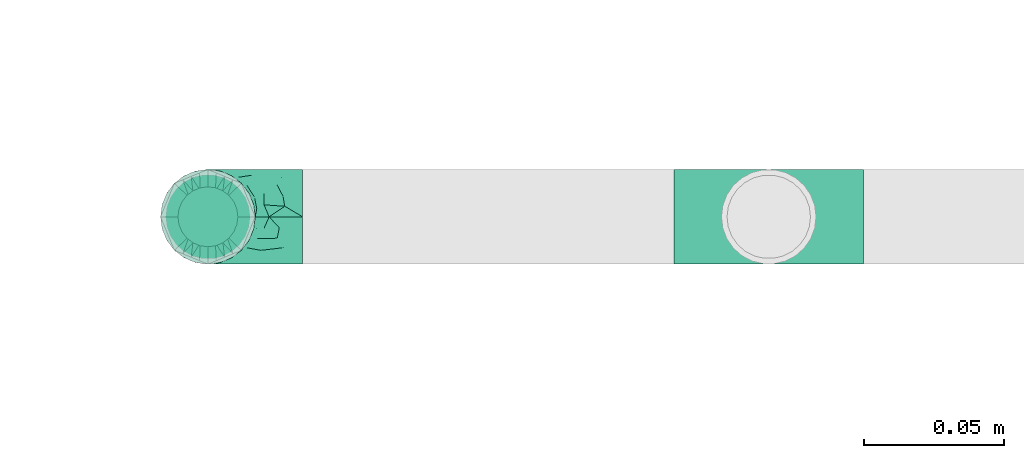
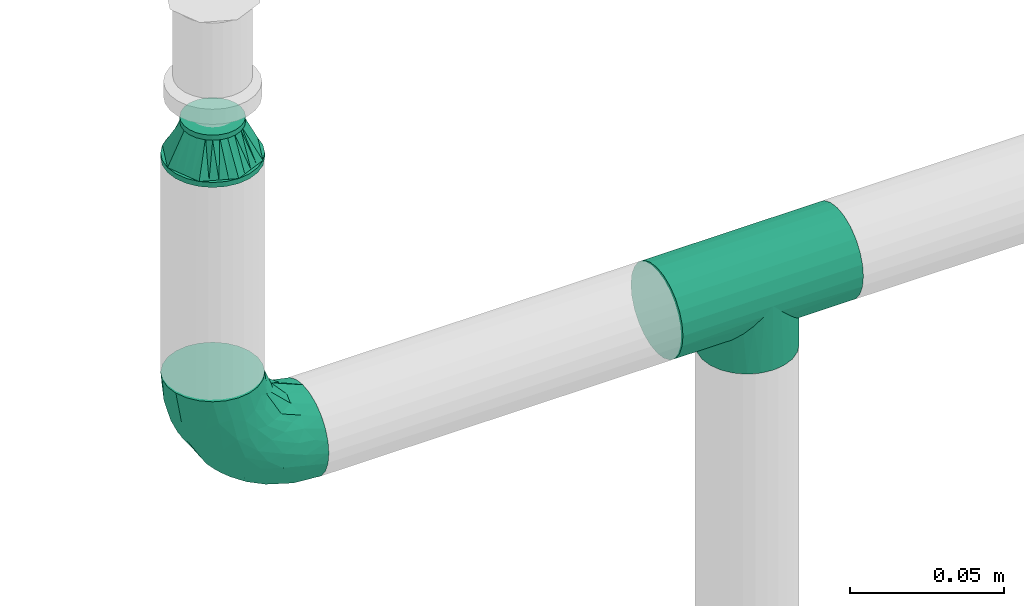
# One storey, part 76 of 157: 3 flow fittings.
"""IFC2X3 building model written with IfcOpenShell, lengths in millimetres."""

from ifc_helpers import new_model, entity, si_unit, converted_unit, derived_unit, direction, frame, origin_with_axes, place, context, subcontext, project, spatial, open_shell, surface_model, source, transform, mapped, type_object, element, save


model = new_model("IFC2X3")

# Units and contexts
model_context = context("Model", 3, precision=0.01, world=frame((0.0, 4.29681676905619e-09, 0.0)), true_north=direction((4.01073788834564e-13, 1.0)))
plan_context = context("Plan", 3, precision=0.01, world=frame((0.0, 4.29681676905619e-09, 0.0)), true_north=direction((4.01073788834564e-13, 1.0)))
body_context = subcontext(model_context, "Body", "Model", "MODEL_VIEW")
ifc_project = project(units=[converted_unit("PLANEANGLEUNIT", "DEGREE", entity("IfcPositiveLengthMeasure", 0.0174532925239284), si_unit("PLANEANGLEUNIT", "RADIAN"), dimensions=[0, 0, 0, 0, 0, 0, 0]), si_unit("AREAUNIT", "SQUARE_METRE"), si_unit("LENGTHUNIT", "METRE", prefix="MILLI"), si_unit("MASSUNIT", "GRAM", prefix="KILO"), si_unit("POWERUNIT", "WATT"), si_unit("PRESSUREUNIT", "PASCAL"), si_unit("FORCEUNIT", "NEWTON", prefix="KILO"), si_unit("ELECTRICCURRENTUNIT", "AMPERE"), si_unit("THERMODYNAMICTEMPERATUREUNIT", "DEGREE_CELSIUS"), si_unit("TIMEUNIT", "SECOND"), si_unit("VOLUMEUNIT", "CUBIC_METRE"), derived_unit("LINEARVELOCITYUNIT", [(si_unit("LENGTHUNIT", "METRE"), 1), (si_unit("TIMEUNIT", "SECOND"), -1)]), derived_unit("VOLUMETRICFLOWRATEUNIT", [(si_unit("VOLUMEUNIT", "CUBIC_METRE"), 1), (si_unit("TIMEUNIT", "SECOND"), -1)]), derived_unit("THERMALTRANSMITTANCEUNIT", [(si_unit("POWERUNIT", "WATT"), 1), (si_unit("THERMODYNAMICTEMPERATUREUNIT", "KELVIN"), -1), (si_unit("AREAUNIT", "SQUARE_METRE"), -1)])], contexts=[model_context, plan_context])

# Site, building, storey
site_placement = place(None, frame((0.0, -4.29681676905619e-09, 0.0), z_axis=(0.0, 0.0, 1.0), x_axis=(1.0, 0.0, 0.0)))
site = spatial("IfcSite", under=ifc_project, at=site_placement, CompositionType="ELEMENT")
building_placement = place(site_placement, frame((0.0, 4.29681676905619e-09, 0.0), z_axis=(0.0, 0.0, 1.0), x_axis=(1.0, 0.0, 0.0)))
building = spatial("IfcBuilding", under=site, at=building_placement, Name="mc-building", CompositionType="ELEMENT")
storey_placement = place(building_placement, frame((0.0, 0.0, 204000.0), z_axis=(0.0, 0.0, 1.0), x_axis=(1.0, 0.0, 0.0)))
storey = spatial("IfcBuildingStorey", under=building, at=storey_placement, Name="Nivå D", CompositionType="ELEMENT", Elevation=204000.0)

# Flow fittings
pipe_fitting_type_1 = type_object("IfcPipeFittingType", Name="magi_pipe_fe_tee_centric_90_NOR", PredefinedType="JUNCTION")
shared_shape_1 = source(origin_with_axes(), body_context, "Body", "SurfaceModel", [
    surface_model("IfcShellBasedSurfaceModel", [(-33.8, 4.37404, -16.32415), (-33.8, 0.0, -16.9), (-33.8, 16.32415, -4.37404), (-33.8, 8.45, -14.63583), (-33.8, 11.9501, -11.9501), (-33.8, 14.63583, -8.45), (-33.8, -16.9, 0.0), (-33.8, -11.9501, -11.9501), (-33.8, -14.63583, -8.45), (-33.8, -8.45, -14.63583), (-33.8, -4.37404, -16.32415), (-33.8, -16.32415, -4.37404), (-33.8, 14.63583, 8.45), (-33.8, 16.32415, 4.37404), (-33.8, -8.45, 14.63583), (-33.8, 8.45, 14.63583), (-33.8, 11.9501, 11.9501), (-33.8, 4.37404, 16.32415), (-33.8, 0.0, 16.9), (-33.8, -11.9501, 11.9501), (-33.8, -14.63583, 8.45), (-33.8, -16.32415, 4.37404), (-33.8, -4.37404, 16.32415), (-33.8, 16.9, 0.0), (33.8, 4.37404, -16.32415), (33.8, -16.9, 0.0), (33.8, 0.0, -16.9), (33.8, 14.63583, -8.45), (33.8, 8.45, -14.63583), (33.8, 16.32415, -4.37404), (33.8, 11.9501, -11.9501), (33.8, -16.32415, 4.37404), (33.8, -8.45, -14.63583), (33.8, -4.37404, -16.32415), (33.8, -11.9501, -11.9501), (33.8, -14.63583, -8.45), (33.8, -16.32415, -4.37404), (33.8, 16.32415, 4.37404), (33.8, 8.45, 14.63583), (33.8, 14.63583, 8.45), (33.8, 11.9501, 11.9501), (33.8, -8.45, 14.63583), (33.8, 4.37404, 16.32415), (33.8, -14.63583, 8.45), (33.8, -11.9501, 11.9501), (33.8, 0.0, 16.9), (33.8, -4.37404, 16.32415), (33.8, 16.9, 0.0), (16.28698, -16.28698, 4.51047), (16.9, -16.9, 0.0), (14.62704, -14.62704, 8.4652), (9.47213, -9.47213, 13.99602), (12.26343, -12.26343, 11.62834), (-16.9, -16.9, 0.0), (-16.28698, -16.28698, 4.51047), (-14.62704, -14.62704, 8.4652), (-12.26343, -12.26343, 11.62834), (-9.47213, -9.47213, 13.99602), (-6.42894, -6.42894, 15.62942), (6.42894, -6.42894, 15.62942), (3.24522, -3.24522, 16.58549), (0.0, 0.0, 16.9), (-3.24522, -3.24522, 16.58549), (3.24522, -3.24522, -16.58549), (0.0, 0.0, -16.9), (-3.24522, -3.24522, -16.58549), (-6.42894, -6.42894, -15.62942), (6.42894, -6.42894, -15.62942), (9.47213, -9.47213, -13.99602), (12.26343, -12.26343, -11.62834), (14.62704, -14.62704, -8.4652), (16.28698, -16.28698, -4.51047), (-9.47213, -9.47213, -13.99602), (-12.26343, -12.26343, -11.62834), (-16.28698, -16.28698, -4.51047), (-14.62704, -14.62704, -8.4652), (4.37404, -25.35, -16.32415), (-16.9, -25.35, 0.0), (0.0, -25.35, -16.9), (14.63583, -25.35, -8.45), (8.45, -25.35, -14.63583), (16.32415, -25.35, -4.37404), (11.9501, -25.35, -11.9501), (-11.9501, -25.35, -11.9501), (-8.45, -25.35, -14.63583), (-4.37404, -25.35, -16.32415), (-14.63583, -25.35, -8.45), (-16.32415, -25.35, -4.37404), (16.9, -25.35, 0.0), (8.45, -25.35, 14.63583), (16.32415, -25.35, 4.37404), (14.63583, -25.35, 8.45), (-8.45, -25.35, 14.63583), (11.9501, -25.35, 11.9501), (4.37404, -25.35, 16.32415), (-16.32415, -25.35, 4.37404), (-11.9501, -25.35, 11.9501), (-14.63583, -25.35, 8.45), (0.0, -25.35, 16.9), (-4.37404, -25.35, 16.32415)], [open_shell([[[0, 1, 2]], [[3, 0, 4]], [[0, 2, 5]], [[4, 0, 5]], [[6, 2, 1]], [[7, 8, 9]], [[1, 10, 9]], [[11, 6, 8]], [[1, 9, 8]], [[1, 8, 6]], [[6, 12, 2]], [[12, 13, 2]], [[14, 12, 6]], [[12, 14, 15]], [[16, 12, 15]], [[17, 15, 18]], [[19, 14, 20]], [[21, 20, 14]], [[22, 18, 14]], [[14, 6, 21]], [[14, 18, 15]], [[23, 2, 13]], [[24, 25, 26]], [[27, 24, 28]], [[27, 29, 24]], [[27, 28, 30]], [[31, 25, 24]], [[26, 32, 33]], [[26, 34, 32]], [[35, 25, 36]], [[35, 34, 26]], [[25, 35, 26]], [[24, 29, 31]], [[29, 37, 38]], [[38, 37, 39]], [[38, 31, 29]], [[38, 39, 40]], [[41, 38, 42]], [[43, 41, 44]], [[41, 43, 31]], [[41, 45, 46]], [[41, 31, 38]], [[42, 45, 41]], [[29, 47, 37]], [[31, 43, 48]], [[25, 31, 49]], [[49, 31, 48]], [[43, 50, 48]], [[44, 41, 51]], [[50, 43, 52]], [[51, 52, 44]], [[52, 43, 44]], [[53, 54, 21]], [[53, 21, 6]], [[21, 54, 20]], [[54, 55, 20]], [[56, 57, 19]], [[19, 20, 56]], [[19, 57, 14]], [[56, 20, 55]], [[14, 57, 58]], [[51, 41, 59]], [[60, 45, 61]], [[59, 46, 60]], [[46, 59, 41]], [[60, 46, 45]], [[61, 45, 42]], [[39, 37, 13]], [[16, 38, 40]], [[12, 40, 39]], [[42, 38, 15]], [[23, 37, 47]], [[62, 61, 18]], [[62, 22, 58]], [[22, 62, 18]], [[58, 22, 14]], [[61, 17, 18]], [[42, 17, 61]], [[15, 17, 42]], [[15, 38, 16]], [[12, 16, 40]], [[13, 12, 39]], [[37, 23, 13]], [[5, 27, 30]], [[23, 47, 29]], [[30, 28, 3]], [[27, 2, 29]], [[26, 33, 63]], [[26, 64, 24]], [[64, 26, 63]], [[28, 24, 0]], [[64, 0, 24]], [[4, 30, 3]], [[2, 27, 5]], [[5, 30, 4]], [[2, 23, 29]], [[65, 66, 10]], [[1, 0, 64]], [[1, 65, 10]], [[66, 9, 10]], [[0, 3, 28]], [[1, 64, 65]], [[63, 33, 67]], [[32, 34, 68]], [[69, 68, 34]], [[35, 70, 69]], [[69, 34, 35]], [[32, 68, 67]], [[36, 25, 49]], [[36, 71, 35]], [[71, 36, 49]], [[35, 71, 70]], [[72, 9, 66]], [[72, 7, 9]], [[7, 72, 73]], [[7, 73, 8]], [[74, 53, 11]], [[75, 74, 8]], [[74, 11, 8]], [[11, 53, 6]], [[75, 8, 73]], [[32, 67, 33]], [[76, 77, 78]], [[79, 76, 80]], [[79, 81, 76]], [[79, 80, 82]], [[77, 76, 81]], [[78, 83, 84]], [[84, 85, 78]], [[86, 77, 87]], [[83, 78, 86]], [[77, 86, 78]], [[81, 88, 77]], [[89, 88, 90]], [[89, 90, 91]], [[92, 77, 89]], [[89, 91, 93]], [[92, 89, 94]], [[95, 96, 97]], [[96, 95, 92]], [[92, 98, 99]], [[95, 77, 92]], [[94, 98, 92]], [[89, 77, 88]], [[77, 95, 53]], [[54, 53, 95]], [[97, 96, 56]], [[96, 92, 57]], [[95, 97, 54]], [[58, 92, 99]], [[55, 54, 97]], [[56, 55, 97]], [[58, 57, 92]], [[98, 61, 62]], [[58, 99, 62]], [[56, 96, 57]], [[62, 99, 98]], [[94, 60, 98]], [[89, 59, 94]], [[91, 90, 48]], [[52, 93, 91]], [[93, 51, 89]], [[49, 90, 88]], [[59, 60, 94]], [[51, 59, 89]], [[49, 48, 90]], [[50, 52, 91]], [[48, 50, 91]], [[51, 93, 52]], [[98, 60, 61]], [[88, 81, 49]], [[71, 49, 81]], [[79, 82, 69]], [[82, 80, 68]], [[81, 79, 71]], [[67, 80, 76]], [[70, 71, 79]], [[69, 70, 79]], [[67, 68, 80]], [[78, 64, 63]], [[67, 76, 63]], [[69, 82, 68]], [[63, 76, 78]], [[85, 65, 78]], [[84, 66, 85]], [[86, 87, 74]], [[86, 73, 83]], [[72, 84, 83]], [[53, 87, 77]], [[66, 65, 85]], [[72, 66, 84]], [[53, 74, 87]], [[75, 73, 86]], [[74, 75, 86]], [[72, 83, 73]], [[78, 65, 64]]])]),
])
flow_fitting_1_placement = place(storey_placement, frame((518500.0, 416601.26648, 2570.0), z_axis=(0.0, 1.0, 0.0), x_axis=(-1.0, 0.0, 0.0)))
element("IfcFlowFitting", 1, at=flow_fitting_1_placement, inside=storey, type_object=pipe_fitting_type_1, Name="magi_pipe_fe_tee_centric_90_NOR", context=body_context, shape_type="MappedRepresentation", body=[
    mapped(shared_shape_1, transform((0.0, 0.0, 0.0), scale=1.0)),
])
pipe_fitting_type_2 = type_object("IfcPipeFittingType", Name="magi_pipe_fe_reducer_centric_short_NOR", PredefinedType="TRANSITION")
shared_shape_2 = source(origin_with_axes(), body_context, "Body", "SurfaceModel", [
    surface_model("IfcShellBasedSurfaceModel", [(14.4, 5.35, -9.26647), (14.4, 0.0, -10.7), (14.4, 2.76936, -10.33541), (14.4, 10.33541, -2.76936), (14.4, 7.56604, -7.56604), (14.4, -10.33541, -2.76936), (14.4, 9.26647, -5.35), (14.4, 0.0, 10.7), (14.4, -5.35, -9.26647), (14.4, -2.76936, -10.33541), (14.4, -7.56604, -7.56604), (14.4, -9.26647, -5.35), (14.4, 10.7, 0.0), (14.4, 10.33541, 2.76936), (14.4, 9.26647, 5.35), (14.4, 7.56604, 7.56604), (14.4, 2.76936, 10.33541), (14.4, 5.35, 9.26647), (14.4, -10.33541, 2.76936), (14.4, -7.56604, 7.56604), (14.4, -9.26647, 5.35), (14.4, -10.7, 0.0), (14.4, -2.76936, 10.33541), (14.4, -5.35, 9.26647), (12.4, 2.76936, 10.33541), (12.4, -10.33541, -2.76936), (12.4, 0.0, 10.7), (12.4, 5.35, 9.26647), (12.4, 7.56604, 7.56604), (12.4, 9.26647, 5.35), (12.4, 10.33541, 2.76936), (12.4, -10.33541, 2.76936), (12.4, -2.76936, 10.33541), (12.4, -7.56604, 7.56604), (12.4, -5.35, 9.26647), (12.4, -9.26647, 5.35), (12.4, -10.7, 0.0), (12.4, 10.33541, -2.76936), (12.4, 5.35, -9.26647), (12.4, 9.26647, -5.35), (12.4, 7.56604, -7.56604), (12.4, 2.76936, -10.33541), (12.4, -9.26647, -5.35), (12.4, -5.35, -9.26647), (12.4, -7.56604, -7.56604), (12.4, 0.0, -10.7), (12.4, -2.76936, -10.33541), (12.4, 10.7, 0.0), (-2.0, 11.9501, 11.9501), (-2.0, 0.0, 16.9), (-2.0, 4.37404, 16.32415), (-2.0, 8.45, 14.63583), (-2.0, 14.63583, 8.45), (-2.0, 16.32415, 4.37404), (-2.0, -16.32415, 4.37404), (-2.0, -8.45, 14.63583), (-2.0, -14.63583, 8.45), (-2.0, -11.9501, 11.9501), (-2.0, -4.37404, 16.32415), (-2.0, -16.32415, -4.37404), (-2.0, -16.9, 0.0), (-2.0, -8.45, -14.63583), (-2.0, 16.32415, -4.37404), (-2.0, 11.9501, -11.9501), (-2.0, 14.63583, -8.45), (-2.0, 8.45, -14.63583), (-2.0, 4.37404, -16.32415), (-2.0, 0.0, -16.9), (-2.0, -11.9501, -11.9501), (-2.0, -14.63583, -8.45), (-2.0, -4.37404, -16.32415), (-2.0, 16.9, 0.0), (0.0, 4.37404, -16.32415), (0.0, 8.45, -14.63583), (0.0, 11.9501, -11.9501), (0.0, 0.0, -16.9), (0.0, 16.32415, -4.37404), (0.0, 16.32415, 4.37404), (0.0, 14.63583, -8.45), (0.0, -8.45, -14.63583), (0.0, -4.37404, -16.32415), (0.0, -11.9501, -11.9501), (0.0, -16.32415, -4.37404), (0.0, -14.63583, -8.45), (0.0, -16.32415, 4.37404), (0.0, 16.9, 0.0), (0.0, 14.63583, 8.45), (0.0, 11.9501, 11.9501), (0.0, 4.37404, 16.32415), (0.0, 8.45, 14.63583), (0.0, 0.0, 16.9), (0.0, -14.63583, 8.45), (0.0, -16.9, 0.0), (0.0, -8.45, 14.63583), (0.0, -11.9501, 11.9501), (0.0, -4.37404, 16.32415), (12.4, 9.3625, -2.31662), (0.0, 14.42505, -5.97505), (0.0, 15.66253, -2.98753), (12.4, -6.6875, -6.94985), (0.0, -13.18758, -8.96258), (0.0, 2.98753, -15.66253), (12.4, 0.0, -9.26647), (12.4, 6.6875, -6.94985), (0.0, 8.96258, -13.18758), (12.4, -9.3625, -2.31662), (0.0, -15.66253, -2.98753), (0.0, -14.42505, -5.97505), (0.0, 5.97505, -14.42505), (0.0, -2.98753, -15.66253), (0.0, -8.96258, -13.18758), (0.0, 13.18758, -8.96258), (12.4, 8.025, -4.63324), (12.4, -2.675, -9.26647), (12.4, 2.675, -9.26647), (0.0, -5.97505, -14.42505), (12.4, -8.025, -4.63324), (12.4, -9.3625, 2.31662), (0.0, -14.42505, 5.97505), (0.0, -15.66253, 2.98753), (12.4, 6.6875, 6.94985), (0.0, 13.18758, 8.96258), (0.0, -2.98753, 15.66253), (12.4, 0.0, 9.26647), (12.4, -6.6875, 6.94985), (0.0, -8.96258, 13.18758), (12.4, 9.3625, 2.31662), (0.0, 15.66253, 2.98753), (0.0, 14.42505, 5.97505), (0.0, -5.97505, 14.42505), (0.0, 2.98753, 15.66253), (0.0, 8.96258, 13.18758), (0.0, -13.18758, 8.96258), (12.4, -8.025, 4.63324), (12.4, 2.675, 9.26647), (12.4, -2.675, 9.26647), (0.0, 5.97505, 14.42505), (12.4, 8.025, 4.63324)], [open_shell([[[0, 1, 2]], [[3, 0, 4]], [[5, 0, 3]], [[3, 4, 6]], [[7, 5, 3]], [[1, 8, 9]], [[1, 0, 8]], [[10, 5, 11]], [[5, 10, 8]], [[0, 5, 8]], [[3, 12, 13]], [[13, 14, 15]], [[13, 15, 16]], [[7, 3, 16]], [[16, 15, 17]], [[7, 18, 5]], [[18, 19, 20]], [[21, 5, 18]], [[19, 22, 23]], [[22, 19, 18]], [[7, 22, 18]], [[13, 16, 3]], [[24, 25, 26]], [[27, 25, 24]], [[28, 29, 30]], [[28, 25, 27]], [[31, 26, 25]], [[32, 33, 34]], [[33, 32, 31]], [[33, 31, 35]], [[32, 26, 31]], [[31, 25, 36]], [[30, 37, 28]], [[25, 28, 37]], [[38, 37, 39]], [[37, 38, 25]], [[38, 39, 40]], [[41, 25, 38]], [[42, 43, 44]], [[43, 42, 25]], [[43, 45, 46]], [[43, 25, 41]], [[41, 45, 43]], [[37, 30, 47]], [[25, 5, 36]], [[42, 11, 25]], [[8, 44, 43]], [[42, 44, 10]], [[9, 43, 46]], [[25, 11, 5]], [[5, 21, 36]], [[9, 8, 43]], [[10, 44, 8]], [[10, 11, 42]], [[1, 9, 46]], [[46, 45, 1]], [[41, 2, 45]], [[38, 0, 41]], [[6, 40, 39]], [[38, 40, 4]], [[3, 39, 37]], [[38, 4, 0]], [[0, 2, 41]], [[12, 3, 37]], [[6, 39, 3]], [[6, 4, 40]], [[47, 12, 37]], [[45, 2, 1]], [[30, 13, 47]], [[29, 14, 30]], [[17, 28, 27]], [[29, 28, 15]], [[16, 27, 24]], [[30, 14, 13]], [[13, 12, 47]], [[16, 17, 27]], [[15, 28, 17]], [[15, 14, 29]], [[7, 16, 24]], [[24, 26, 7]], [[32, 22, 26]], [[34, 23, 32]], [[20, 33, 35]], [[34, 33, 19]], [[18, 35, 31]], [[34, 19, 23]], [[23, 22, 32]], [[21, 18, 31]], [[20, 35, 18]], [[20, 19, 33]], [[36, 21, 31]], [[26, 22, 7]], [[48, 49, 50]], [[48, 50, 51]], [[48, 52, 53]], [[48, 53, 49]], [[49, 53, 54]], [[55, 56, 57]], [[55, 58, 49]], [[56, 55, 49]], [[49, 54, 56]], [[54, 59, 60]], [[54, 53, 61]], [[53, 62, 63]], [[63, 62, 64]], [[63, 65, 66]], [[61, 53, 63]], [[67, 63, 66]], [[59, 68, 69]], [[68, 59, 61]], [[61, 67, 70]], [[59, 54, 61]], [[63, 67, 61]], [[53, 71, 62]], [[72, 73, 74]], [[75, 72, 74]], [[74, 76, 77]], [[76, 74, 78]], [[74, 77, 79]], [[75, 79, 80]], [[75, 74, 79]], [[81, 82, 83]], [[82, 81, 79]], [[79, 84, 82]], [[77, 76, 85]], [[77, 86, 87]], [[77, 87, 88]], [[88, 84, 79]], [[88, 87, 89]], [[84, 88, 90]], [[90, 91, 84]], [[92, 82, 84]], [[91, 93, 94]], [[91, 90, 93]], [[93, 90, 95]], [[79, 77, 88]], [[59, 82, 60]], [[69, 83, 59]], [[79, 68, 61]], [[69, 68, 81]], [[80, 61, 70]], [[59, 83, 82]], [[82, 92, 60]], [[80, 79, 61]], [[81, 68, 79]], [[81, 83, 69]], [[75, 80, 70]], [[70, 67, 75]], [[66, 72, 67]], [[65, 73, 66]], [[78, 63, 64]], [[65, 63, 74]], [[76, 64, 62]], [[65, 74, 73]], [[73, 72, 66]], [[85, 76, 62]], [[78, 64, 76]], [[78, 74, 63]], [[71, 85, 62]], [[67, 72, 75]], [[53, 77, 71]], [[52, 86, 53]], [[89, 48, 51]], [[52, 48, 87]], [[88, 51, 50]], [[53, 86, 77]], [[77, 85, 71]], [[88, 89, 51]], [[87, 48, 89]], [[87, 86, 52]], [[90, 88, 50]], [[50, 49, 90]], [[58, 95, 49]], [[55, 93, 58]], [[91, 57, 56]], [[55, 57, 94]], [[84, 56, 54]], [[55, 94, 93]], [[93, 95, 58]], [[92, 84, 54]], [[91, 56, 84]], [[91, 94, 57]], [[60, 92, 54]], [[49, 95, 90]], [[27, 34, 47]], [[47, 34, 43]], [[43, 38, 47]], [[43, 34, 36]], [[90, 87, 94]], [[92, 94, 87]], [[87, 74, 92]], [[75, 92, 74]], [[81, 92, 75]], [[74, 87, 85]], [[96, 97, 98]], [[81, 99, 100]], [[101, 102, 75]], [[98, 85, 47]], [[74, 103, 104]], [[104, 103, 38]], [[105, 106, 107]], [[38, 108, 104]], [[102, 109, 75]], [[110, 99, 81]], [[47, 96, 98]], [[103, 111, 112]], [[109, 102, 113]], [[36, 92, 106]], [[102, 101, 114]], [[110, 115, 43]], [[96, 112, 97]], [[107, 116, 105]], [[36, 106, 105]], [[113, 115, 109]], [[43, 115, 113]], [[116, 107, 100]], [[108, 38, 114]], [[111, 103, 74]], [[111, 97, 112]], [[99, 110, 43]], [[116, 100, 99]], [[101, 108, 114]], [[117, 118, 119]], [[87, 120, 121]], [[122, 123, 90]], [[119, 92, 36]], [[94, 124, 125]], [[125, 124, 34]], [[126, 127, 128]], [[34, 129, 125]], [[123, 130, 90]], [[131, 120, 87]], [[36, 117, 119]], [[124, 132, 133]], [[130, 123, 134]], [[47, 85, 127]], [[123, 122, 135]], [[131, 136, 27]], [[117, 133, 118]], [[128, 137, 126]], [[47, 127, 126]], [[134, 136, 130]], [[27, 136, 134]], [[137, 128, 121]], [[129, 34, 135]], [[132, 124, 94]], [[132, 118, 133]], [[120, 131, 27]], [[137, 121, 120]], [[122, 129, 135]]])]),
])
flow_fitting_2_placement = place(storey_placement, frame((518299.77498, 416601.26648, 2690.64799999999), z_axis=(0.0, 1.0, 0.0), x_axis=(0.0, 0.0, 1.0)))
element("IfcFlowFitting", 2, at=flow_fitting_2_placement, inside=storey, type_object=pipe_fitting_type_2, Name="magi_pipe_fe_reducer_centric_short_NOR", context=body_context, shape_type="MappedRepresentation", body=[
    mapped(shared_shape_2, transform((0.0, 0.0, 0.0), scale=1.0)),
])
pipe_fitting_type_3 = type_object("IfcPipeFittingType", Name="magi_pipe_fe_elbow_short_001", PredefinedType="BEND")
shared_shape_3 = source(origin_with_axes(), body_context, "Body", "SurfaceModel", [
    surface_model("IfcShellBasedSurfaceModel", [(-33.8, 8.45, -14.63583), (-33.8, 4.37404, -16.32415), (-33.8, 11.9501, -11.9501), (-33.8, -11.9501, -11.9501), (-33.8, -14.63583, -8.45), (-33.8, -8.45, -14.63583), (-33.8, 0.0, -16.9), (-33.8, -4.37404, -16.32415), (-33.8, -4.37404, 16.32415), (-33.8, 0.0, 16.9), (-33.8, -8.45, 14.63583), (-33.8, 16.32415, -4.37404), (-33.8, 14.63583, -8.45), (-33.8, -16.32415, -4.37404), (-33.8, -16.9, 0.0), (-33.8, -16.32415, 4.37404), (-33.8, 11.9501, 11.9501), (-33.8, 14.63583, 8.45), (-33.8, 16.32415, 4.37404), (-33.8, 4.37404, 16.32415), (-33.8, 8.45, 14.63583), (-33.8, -14.63583, 8.45), (-33.8, -11.9501, 11.9501), (-33.8, 16.9, 0.0), (-11.9501, 33.8, -11.9501), (0.0, 33.8, -16.9), (-4.37404, 33.8, -16.32415), (-8.45, 33.8, -14.63583), (-14.63583, 33.8, -8.45), (-16.32415, 33.8, -4.37404), (14.63583, 33.8, -8.45), (8.45, 33.8, 14.63583), (16.32415, 33.8, -4.37404), (8.45, 33.8, -14.63583), (11.9501, 33.8, -11.9501), (4.37404, 33.8, -16.32415), (16.32415, 33.8, 4.37404), (16.9, 33.8, 0.0), (-11.9501, 33.8, 11.9501), (-16.32415, 33.8, 4.37404), (-14.63583, 33.8, 8.45), (-8.45, 33.8, 14.63583), (-4.37404, 33.8, 16.32415), (11.9501, 33.8, 11.9501), (14.63583, 33.8, 8.45), (0.0, 33.8, 16.9), (4.37404, 33.8, 16.32415), (-16.9, 33.8, 0.0), (-24.79389, -13.12945, 9.48721), (-22.19287, -9.75018, 12.59315), (-24.09897, -14.97035, 0.0), (-14.93934, -10.76256, 8.5297), (-22.46095, -14.75051, 5.27077), (14.75051, 22.46094, 5.27077), (11.9251, 13.23888, 4.33236), (13.04069, 14.39795, 0.0), (7.71387, 13.68847, 11.55891), (9.75018, 22.19287, 12.59315), (4.10169, 13.0571, 14.04018), (-24.84007, -6.39063, 15.2048), (-25.81779, -2.23879, 16.61097), (-23.66549, 2.59054, 16.87119), (-26.50418, 14.06512, 11.08152), (-24.21253, 17.66365, 7.72657), (-29.58514, 15.86957, 7.00283), (-6.17382, -7.5455, 0.0), (-13.23888, -11.9251, 4.33236), (-14.39795, -13.04069, 0.0), (-17.81434, 18.87373, 11.97104), (-6.30846, 29.15138, 15.82987), (-2.31622, 25.28002, 16.85849), (-29.23923, 10.23435, 13.77053), (-1.45439, -2.85688, 7.61475), (-0.28326, 0.34872, 10.09509), (-5.74484, -4.04709, 10.4122), (-4.41137, 11.31918, 16.59407), (-8.39727, 3.10034, 15.7812), (-1.72649, 9.1306, 15.53089), (-17.39909, 24.75344, 7.64977), (-26.19233, 20.0512, 0.0), (-28.14518, 17.29657, 4.25857), (-26.05147, 6.6281, 15.96447), (-5.87354, 16.61944, 16.86968), (-12.51807, 12.51807, 16.48937), (-10.06312, 7.38516, 16.81295), (-3.01882, 3.01882, 13.81718), (-13.0571, -4.10169, 14.04018), (-16.82553, -0.15166, 16.38038), (10.76256, 14.93934, 8.5297), (13.12945, 24.79389, 9.48721), (6.39063, 24.84007, 15.2048), (2.23879, 25.81779, 16.61097), (-13.68847, -7.71387, 11.55891), (14.97035, 24.09897, 0.0), (-7.30894, 22.89991, 16.09489), (-10.67958, 26.17414, 14.008), (-12.78295, 18.26924, 15.06066), (-13.88562, 22.45231, 12.93244), (-18.04944, 15.16501, 14.04434), (-23.11658, 20.08178, 4.02986), (-21.84989, 21.84989, 0.0), (-18.55817, 25.48277, 3.93065), (-13.95142, 26.94732, 11.03289), (-18.57098, 7.23906, 16.59756), (-16.58335, 4.14122, 16.89279), (-17.96666, 11.46709, 15.63151), (-9.84453, 17.54304, 16.18938), (0.15166, 16.82553, 16.38038), (-23.27207, 11.47201, 14.23154), (3.84842, 5.86994, 10.70473), (-8.0212, -7.54413, 7.93275), (1.00345, -2.19508, 4.57414), (5.13203, 3.01004, 5.90201), (5.24161, 1.7543, 2.53265), (8.70457, 7.04947, 3.99182), (-20.0512, 26.19233, 0.0), (8.4852, 8.76699, 7.09296), (-4.55488, -6.72064, 4.90681), (2.05031, -2.05031, 0.0), (7.5455, 6.17382, 0.0), (-26.75399, 2.1369, -16.845), (-14.61995, 24.73803, -11.27736), (-28.45274, -13.45335, -9.81895), (-26.00469, 6.63555, -15.96645), (-23.06726, 20.04573, -4.26202), (-13.80647, -4.26506, -14.17873), (-14.67501, -0.21081, -16.07388), (-6.7902, -0.2828, -13.8478), (-24.53586, 11.08096, -14.13417), (-26.72048, 14.00837, -11.05776), (10.0967, 24.44989, -12.75976), (5.83237, 21.40218, -15.03047), (6.66249, 28.54238, -15.38093), (-20.38182, 15.48705, -12.74596), (12.53268, 21.23441, -9.15363), (12.54494, 15.67504, -5.54878), (9.7522, 12.89279, -8.66343), (-15.65186, 19.64213, -13.01327), (-12.03528, 20.66498, -14.67665), (-15.61907, 15.61906, -14.83879), (-25.56551, -15.26206, 0.0), (-24.65452, -15.12934, -5.50955), (13.45335, 28.45274, -9.81895), (15.12934, 24.65452, -5.50955), (-7.35442, -8.31014, -5.65563), (-15.67504, -12.54494, -5.54878), (-24.44989, -10.0967, -12.75976), (0.16522, 0.41303, -9.71728), (-5.70658, -5.33066, -8.89288), (-5.13869, -2.37198, -11.53565), (-21.23441, -12.53268, -9.15363), (0.71146, 7.93863, -14.09382), (0.21081, 14.67501, -16.07388), (3.49291, 14.42772, -14.76381), (-24.89911, -2.13088, -16.591), (-28.54238, -6.66249, -15.38093), (-18.44386, -7.71663, -13.26957), (2.13088, 24.89911, -16.591), (-28.64342, 17.44413, -2.89318), (1.70017, -1.28722, -5.09504), (-16.57067, 26.81947, -7.36596), (-17.69055, 27.4263, -3.76405), (-12.89279, -9.7522, -8.66343), (-5.96611, 5.96611, -15.95814), (-20.53709, 20.09345, -8.28985), (-2.1369, 26.75399, -16.845), (-6.89872, 24.58781, -16.02578), (-10.60739, 26.53157, -13.98044), (-21.40218, -5.83237, -15.03047), (2.93192, 5.89627, -11.55917), (6.89393, 12.61842, -11.82233), (5.58056, 5.95325, -8.79455), (-3.99512, 18.61798, -16.89635), (8.31014, 7.35442, -5.65563), (-9.1383, 9.86148, -16.89041), (-9.99983, 16.02119, -16.39699), (-16.68576, 9.78031, -16.34199), (-27.01915, 16.61158, -7.12979), (15.26206, 25.56551, 0.0), (-18.61798, 3.99512, -16.89635), (-19.37495, 27.82495, 0.0), (-12.61842, -6.89393, -11.82233), (-18.84705, 19.14018, -10.96545)], [open_shell([[[0, 1, 2]], [[3, 4, 5]], [[6, 7, 5]], [[8, 9, 10]], [[1, 6, 2]], [[11, 12, 2]], [[4, 2, 6]], [[2, 13, 10]], [[5, 4, 6]], [[2, 4, 13]], [[14, 15, 13]], [[11, 2, 16]], [[11, 17, 18]], [[11, 16, 17]], [[19, 20, 16]], [[16, 2, 10]], [[19, 16, 10]], [[21, 22, 15]], [[22, 13, 15]], [[22, 10, 13]], [[10, 9, 19]], [[11, 18, 23]], [[24, 25, 26]], [[24, 26, 27]], [[24, 28, 29]], [[25, 24, 30]], [[31, 32, 24]], [[33, 30, 34]], [[33, 35, 25]], [[25, 30, 33]], [[32, 30, 24]], [[32, 36, 37]], [[38, 24, 29]], [[39, 40, 29]], [[40, 38, 29]], [[38, 41, 42]], [[38, 31, 24]], [[31, 38, 42]], [[36, 43, 44]], [[36, 32, 43]], [[31, 45, 46]], [[32, 31, 43]], [[42, 45, 31]], [[39, 29, 47]], [[22, 48, 49]], [[15, 14, 50]], [[51, 48, 52]], [[53, 54, 55]], [[48, 22, 21]], [[15, 52, 21]], [[56, 57, 58]], [[49, 10, 22]], [[49, 59, 10]], [[9, 60, 61]], [[62, 63, 64]], [[65, 66, 67]], [[57, 43, 31]], [[62, 68, 63]], [[42, 69, 70]], [[20, 71, 16]], [[8, 60, 9]], [[72, 73, 74]], [[75, 76, 77]], [[16, 62, 17]], [[40, 39, 78]], [[79, 23, 80]], [[64, 18, 17]], [[9, 61, 19]], [[19, 81, 20]], [[82, 83, 84]], [[74, 85, 86]], [[59, 86, 87]], [[88, 89, 57]], [[90, 31, 46]], [[44, 53, 36]], [[46, 45, 91]], [[54, 53, 88]], [[44, 89, 53]], [[92, 86, 49]], [[89, 44, 43]], [[10, 59, 8]], [[53, 55, 93]], [[93, 36, 53]], [[66, 52, 67]], [[94, 82, 70]], [[95, 96, 94]], [[97, 98, 96]], [[79, 99, 100]], [[41, 38, 95]], [[101, 100, 99]], [[68, 78, 63]], [[42, 41, 69]], [[23, 18, 80]], [[95, 94, 69]], [[78, 101, 99]], [[38, 102, 95]], [[70, 45, 42]], [[97, 95, 102]], [[15, 50, 52]], [[90, 57, 31]], [[57, 90, 58]], [[81, 19, 61]], [[103, 104, 84]], [[105, 81, 103]], [[38, 40, 102]], [[106, 96, 83]], [[94, 106, 82]], [[91, 70, 107]], [[71, 62, 16]], [[62, 108, 98]], [[86, 59, 49]], [[67, 52, 50]], [[60, 59, 87]], [[92, 49, 51]], [[86, 85, 76]], [[91, 90, 46]], [[37, 36, 93]], [[107, 77, 58]], [[107, 58, 90]], [[58, 85, 109]], [[110, 74, 92]], [[72, 74, 110]], [[66, 51, 52]], [[72, 111, 112]], [[113, 114, 112]], [[56, 88, 57]], [[52, 48, 21]], [[49, 48, 51]], [[57, 89, 43]], [[53, 89, 88]], [[103, 81, 61]], [[71, 81, 108]], [[18, 64, 80]], [[63, 78, 99]], [[47, 115, 101]], [[101, 115, 100]], [[40, 78, 102]], [[68, 102, 78]], [[97, 96, 95]], [[105, 98, 108]], [[103, 84, 83]], [[107, 70, 82]], [[76, 84, 87]], [[82, 84, 75]], [[70, 91, 45]], [[90, 91, 107]], [[59, 60, 8]], [[61, 60, 87]], [[73, 85, 74]], [[109, 112, 116]], [[103, 61, 104]], [[105, 103, 83]], [[96, 105, 83]], [[81, 105, 108]], [[96, 98, 105]], [[62, 98, 68]], [[61, 87, 104]], [[87, 84, 104]], [[86, 76, 87]], [[77, 76, 85]], [[58, 77, 85]], [[75, 77, 107]], [[82, 75, 107]], [[76, 75, 84]], [[81, 71, 20]], [[62, 71, 108]], [[95, 69, 41]], [[70, 69, 94]], [[62, 64, 17]], [[80, 63, 99]], [[63, 80, 64]], [[80, 99, 79]], [[66, 65, 117]], [[110, 66, 117]], [[112, 114, 116]], [[118, 117, 65]], [[110, 92, 51]], [[112, 111, 113]], [[119, 55, 54]], [[74, 86, 92]], [[58, 109, 56]], [[116, 56, 109]], [[66, 110, 51]], [[72, 110, 117]], [[111, 72, 117]], [[73, 112, 109]], [[117, 118, 111]], [[113, 111, 118]], [[118, 119, 113]], [[114, 119, 54]], [[119, 114, 113]], [[116, 54, 88]], [[54, 116, 114]], [[116, 88, 56]], [[112, 73, 72]], [[85, 73, 109]], [[78, 39, 101]], [[47, 101, 39]], [[102, 68, 97]], [[97, 68, 98]], [[82, 106, 83]], [[94, 96, 106]], [[1, 120, 6]], [[28, 24, 121]], [[3, 122, 4]], [[0, 123, 1]], [[100, 124, 79]], [[125, 126, 127]], [[128, 2, 129]], [[130, 131, 132]], [[128, 129, 133]], [[134, 135, 136]], [[137, 138, 139]], [[128, 0, 2]], [[67, 140, 141]], [[134, 142, 143]], [[141, 13, 4]], [[144, 65, 145]], [[146, 3, 5]], [[147, 148, 149]], [[145, 141, 150]], [[151, 152, 153]], [[154, 7, 6]], [[5, 155, 146]], [[150, 146, 156]], [[155, 5, 7]], [[143, 135, 134]], [[35, 157, 25]], [[23, 79, 158]], [[148, 159, 144]], [[160, 161, 29]], [[145, 162, 144]], [[163, 152, 151]], [[29, 28, 160]], [[121, 164, 160]], [[33, 34, 130]], [[25, 165, 26]], [[26, 165, 166]], [[142, 34, 30]], [[24, 27, 167]], [[124, 161, 164]], [[157, 35, 132]], [[155, 154, 168]], [[123, 0, 128]], [[169, 170, 171]], [[172, 157, 152]], [[26, 166, 27]], [[132, 35, 33]], [[142, 130, 34]], [[168, 154, 126]], [[136, 135, 173]], [[133, 137, 139]], [[2, 12, 129]], [[170, 131, 130]], [[30, 32, 143]], [[172, 174, 175]], [[176, 123, 128]], [[158, 177, 11]], [[135, 55, 119]], [[167, 27, 166]], [[175, 166, 172]], [[137, 167, 138]], [[122, 141, 4]], [[140, 14, 13]], [[32, 37, 178]], [[170, 130, 134]], [[152, 157, 131]], [[165, 157, 172]], [[153, 170, 151]], [[152, 163, 174]], [[168, 125, 156]], [[122, 146, 150]], [[120, 154, 6]], [[179, 174, 126]], [[179, 126, 154]], [[126, 163, 127]], [[162, 145, 150]], [[140, 13, 141]], [[32, 178, 143]], [[55, 143, 178]], [[177, 129, 12]], [[128, 133, 139]], [[176, 128, 139]], [[120, 123, 179]], [[121, 160, 28]], [[161, 100, 180]], [[166, 175, 138]], [[121, 24, 167]], [[161, 47, 29]], [[79, 124, 158]], [[124, 164, 177]], [[161, 124, 100]], [[136, 171, 170]], [[127, 163, 151]], [[147, 171, 159]], [[148, 144, 162]], [[127, 151, 169]], [[127, 181, 125]], [[129, 177, 164]], [[12, 11, 177]], [[159, 65, 144]], [[67, 141, 145]], [[143, 55, 135]], [[135, 119, 173]], [[123, 120, 1]], [[154, 120, 179]], [[157, 165, 25]], [[166, 165, 172]], [[172, 152, 174]], [[176, 139, 175]], [[126, 174, 163]], [[176, 174, 179]], [[174, 176, 175]], [[123, 176, 179]], [[150, 181, 162]], [[127, 149, 181]], [[181, 148, 162]], [[159, 148, 147]], [[171, 136, 173]], [[170, 134, 136]], [[159, 171, 173]], [[171, 147, 169]], [[169, 147, 149]], [[151, 170, 169]], [[164, 182, 129]], [[182, 121, 137]], [[181, 149, 148]], [[169, 149, 127]], [[182, 137, 133]], [[167, 137, 121]], [[166, 138, 167]], [[175, 139, 138]], [[129, 182, 133]], [[121, 182, 164]], [[161, 160, 164]], [[47, 161, 180]], [[177, 158, 124]], [[23, 158, 11]], [[130, 132, 33]], [[157, 132, 131]], [[143, 142, 30]], [[130, 142, 134]], [[154, 155, 7]], [[146, 155, 168]], [[146, 122, 3]], [[141, 122, 150]], [[152, 131, 153]], [[159, 119, 118]], [[67, 145, 65]], [[170, 153, 131]], [[119, 159, 173]], [[159, 118, 65]], [[156, 125, 181]], [[126, 125, 168]], [[150, 156, 181]], [[168, 156, 146]]])]),
])
flow_fitting_3_placement = place(storey_placement, frame((518299.77498, 416601.26648, 2570.0), z_axis=(0.0, -1.0, 0.0), x_axis=(0.0, 0.0, -1.0)))
element("IfcFlowFitting", 3, at=flow_fitting_3_placement, inside=storey, type_object=pipe_fitting_type_3, Name="magi_pipe_fe_elbow_short_001", context=body_context, shape_type="MappedRepresentation", body=[
    mapped(shared_shape_3, transform((0.0, 0.0, 0.0), scale=1.0)),
])

save(model, "model.ifc")
